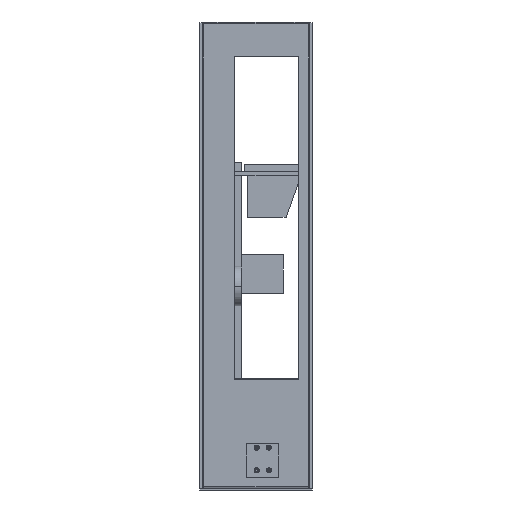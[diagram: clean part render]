
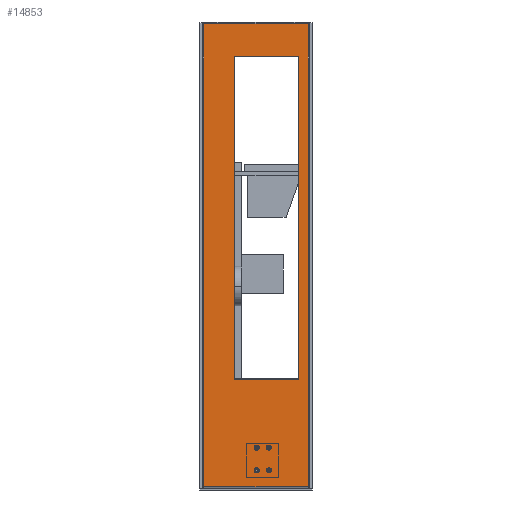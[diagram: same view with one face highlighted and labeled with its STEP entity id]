
A CAD part, front view. The second image highlights one B-rep face of the part: STEP entity #14853.
In plain terms, the highlighted planar face has unit normal (0, -1, 0) as drawn and (0, 1, 0) by its records, which use the part's own axes.
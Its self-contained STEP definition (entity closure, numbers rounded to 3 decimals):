
#10246=CARTESIAN_POINT('',(-716.,0.,2.));
#10247=VERTEX_POINT('',#10246);
#10377=CARTESIAN_POINT('',(-716.,0.,164.));
#10378=VERTEX_POINT('',#10377);
#10386=CARTESIAN_POINT('',(-0.,0.,164.));
#10387=VERTEX_POINT('',#10386);
#10388=CARTESIAN_POINT('',(-0.,0.,164.));
#10389=DIRECTION('',(-1.,0.,0.));
#10390=VECTOR('',#10389,716.);
#10391=LINE('',#10388,#10390);
#10392=EDGE_CURVE('',#10387,#10378,#10391,.T.);
#10639=CARTESIAN_POINT('',(-0.,0.,2.));
#10640=VERTEX_POINT('',#10639);
#11352=CARTESIAN_POINT('',(-50.,0.,49.));
#11353=VERTEX_POINT('',#11352);
#11360=CARTESIAN_POINT('',(-50.,0.,149.));
#11361=VERTEX_POINT('',#11360);
#11362=CARTESIAN_POINT('',(-50.,0.,49.));
#11363=DIRECTION('',(-0.,-0.,1.));
#11364=VECTOR('',#11363,100.);
#11365=LINE('',#11362,#11364);
#11366=EDGE_CURVE('',#11353,#11361,#11365,.T.);
#11391=CARTESIAN_POINT('',(-550.,0.,149.));
#11392=VERTEX_POINT('',#11391);
#11393=CARTESIAN_POINT('',(-50.,0.,149.));
#11394=DIRECTION('',(-1.,-0.,-0.));
#11395=VECTOR('',#11394,500.);
#11396=LINE('',#11393,#11395);
#11397=EDGE_CURVE('',#11361,#11392,#11396,.T.);
#11422=CARTESIAN_POINT('',(-550.,0.,49.));
#11423=VERTEX_POINT('',#11422);
#11424=CARTESIAN_POINT('',(-550.,0.,149.));
#11425=DIRECTION('',(-0.,-0.,-1.));
#11426=VECTOR('',#11425,100.);
#11427=LINE('',#11424,#11426);
#11428=EDGE_CURVE('',#11392,#11423,#11427,.T.);
#11451=CARTESIAN_POINT('',(-550.,0.,49.));
#11452=DIRECTION('',(1.,-0.,-0.));
#11453=VECTOR('',#11452,500.);
#11454=LINE('',#11451,#11453);
#11455=EDGE_CURVE('',#11423,#11353,#11454,.T.);
#11482=CARTESIAN_POINT('',(-0.,0.,2.));
#11483=DIRECTION('',(-1.,0.,0.));
#11484=VECTOR('',#11483,716.);
#11485=LINE('',#11482,#11484);
#11486=EDGE_CURVE('',#10640,#10247,#11485,.T.);
#11496=CARTESIAN_POINT('',(0.,0.,164.));
#11497=DIRECTION('',(-0.,-0.,-1.));
#11498=VECTOR('',#11497,162.);
#11499=LINE('',#11496,#11498);
#11500=EDGE_CURVE('',#10387,#10640,#11499,.T.);
#13280=CARTESIAN_POINT('',(-716.,0.,164.));
#13281=DIRECTION('',(-0.,-0.,-1.));
#13282=VECTOR('',#13281,162.);
#13283=LINE('',#13280,#13282);
#13284=EDGE_CURVE('',#10378,#10247,#13283,.T.);
#14509=CARTESIAN_POINT('',(-651.45,0.,84.));
#14510=VERTEX_POINT('',#14509);
#14517=CARTESIAN_POINT('',(-659.55,0.,84.));
#14518=VERTEX_POINT('',#14517);
#14519=CARTESIAN_POINT('',(-655.5,-0.,84.));
#14520=DIRECTION('',(0.,-1.,0.));
#14521=DIRECTION('',(1.,0.,0.));
#14522=AXIS2_PLACEMENT_3D('',#14519,#14520,#14521);
#14523=CIRCLE('',#14522,4.05);
#14524=EDGE_CURVE('',#14510,#14518,#14523,.T.);
#14542=CARTESIAN_POINT('',(-655.5,0.,84.));
#14543=DIRECTION('',(0.,-1.,0.));
#14544=DIRECTION('',(-0.5,0.,0.866));
#14545=AXIS2_PLACEMENT_3D('',#14542,#14543,#14544);
#14546=CIRCLE('',#14545,4.05);
#14547=EDGE_CURVE('',#14518,#14510,#14546,.T.);
#14609=CARTESIAN_POINT('',(-686.45,0.,84.));
#14610=VERTEX_POINT('',#14609);
#14617=CARTESIAN_POINT('',(-694.55,0.,84.));
#14618=VERTEX_POINT('',#14617);
#14619=CARTESIAN_POINT('',(-690.5,-0.,84.));
#14620=DIRECTION('',(0.,-1.,0.));
#14621=DIRECTION('',(1.,0.,0.));
#14622=AXIS2_PLACEMENT_3D('',#14619,#14620,#14621);
#14623=CIRCLE('',#14622,4.05);
#14624=EDGE_CURVE('',#14610,#14618,#14623,.T.);
#14642=CARTESIAN_POINT('',(-690.5,0.,84.));
#14643=DIRECTION('',(0.,-1.,0.));
#14644=DIRECTION('',(-0.5,0.,0.866));
#14645=AXIS2_PLACEMENT_3D('',#14642,#14643,#14644);
#14646=CIRCLE('',#14645,4.05);
#14647=EDGE_CURVE('',#14618,#14610,#14646,.T.);
#14709=CARTESIAN_POINT('',(-686.45,0.,103.));
#14710=VERTEX_POINT('',#14709);
#14717=CARTESIAN_POINT('',(-694.55,0.,103.));
#14718=VERTEX_POINT('',#14717);
#14719=CARTESIAN_POINT('',(-690.5,-0.,103.));
#14720=DIRECTION('',(0.,-1.,0.));
#14721=DIRECTION('',(1.,0.,0.));
#14722=AXIS2_PLACEMENT_3D('',#14719,#14720,#14721);
#14723=CIRCLE('',#14722,4.05);
#14724=EDGE_CURVE('',#14710,#14718,#14723,.T.);
#14742=CARTESIAN_POINT('',(-690.5,0.,103.));
#14743=DIRECTION('',(0.,-1.,0.));
#14744=DIRECTION('',(-0.5,0.,0.866));
#14745=AXIS2_PLACEMENT_3D('',#14742,#14743,#14744);
#14746=CIRCLE('',#14745,4.05);
#14747=EDGE_CURVE('',#14718,#14710,#14746,.T.);
#14804=CARTESIAN_POINT('',(0.,0.,0.));
#14805=DIRECTION('',(0.,-1.,0.));
#14806=DIRECTION('',(0.,0.,1.));
#14807=AXIS2_PLACEMENT_3D('',#14804,#14805,#14806);
#14808=PLANE('',#14807);
#14809=ORIENTED_EDGE('',*,*,#11486,.T.);
#14810=ORIENTED_EDGE('',*,*,#13284,.F.);
#14811=ORIENTED_EDGE('',*,*,#10392,.F.);
#14812=ORIENTED_EDGE('',*,*,#11500,.T.);
#14813=EDGE_LOOP('',(#14809,#14810,#14811,#14812));
#14814=FACE_BOUND('',#14813,.T.);
#14815=CARTESIAN_POINT('',(-651.45,0.,103.));
#14816=VERTEX_POINT('',#14815);
#14817=CARTESIAN_POINT('',(-659.55,0.,103.));
#14818=VERTEX_POINT('',#14817);
#14819=CARTESIAN_POINT('',(-655.5,-0.,103.));
#14820=DIRECTION('',(0.,-1.,0.));
#14821=DIRECTION('',(1.,0.,0.));
#14822=AXIS2_PLACEMENT_3D('',#14819,#14820,#14821);
#14823=CIRCLE('',#14822,4.05);
#14824=EDGE_CURVE('',#14816,#14818,#14823,.T.);
#14825=ORIENTED_EDGE('',*,*,#14824,.T.);
#14826=CARTESIAN_POINT('',(-655.5,0.,103.));
#14827=DIRECTION('',(0.,-1.,0.));
#14828=DIRECTION('',(-0.5,0.,0.866));
#14829=AXIS2_PLACEMENT_3D('',#14826,#14827,#14828);
#14830=CIRCLE('',#14829,4.05);
#14831=EDGE_CURVE('',#14818,#14816,#14830,.T.);
#14832=ORIENTED_EDGE('',*,*,#14831,.T.);
#14833=EDGE_LOOP('',(#14825,#14832));
#14834=FACE_BOUND('',#14833,.T.);
#14835=ORIENTED_EDGE('',*,*,#14724,.T.);
#14836=ORIENTED_EDGE('',*,*,#14747,.T.);
#14837=EDGE_LOOP('',(#14835,#14836));
#14838=FACE_BOUND('',#14837,.T.);
#14839=ORIENTED_EDGE('',*,*,#14624,.T.);
#14840=ORIENTED_EDGE('',*,*,#14647,.T.);
#14841=EDGE_LOOP('',(#14839,#14840));
#14842=FACE_BOUND('',#14841,.T.);
#14843=ORIENTED_EDGE('',*,*,#14524,.T.);
#14844=ORIENTED_EDGE('',*,*,#14547,.T.);
#14845=EDGE_LOOP('',(#14843,#14844));
#14846=FACE_BOUND('',#14845,.T.);
#14847=ORIENTED_EDGE('',*,*,#11366,.T.);
#14848=ORIENTED_EDGE('',*,*,#11397,.T.);
#14849=ORIENTED_EDGE('',*,*,#11428,.T.);
#14850=ORIENTED_EDGE('',*,*,#11455,.T.);
#14851=EDGE_LOOP('',(#14847,#14848,#14849,#14850));
#14852=FACE_BOUND('',#14851,.T.);
#14853=ADVANCED_FACE('',(#14814,#14834,#14838,#14842,#14846,#14852),#14808,.F.);
